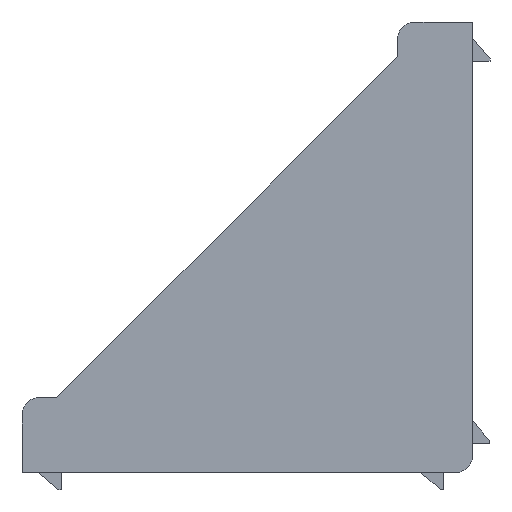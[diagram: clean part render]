
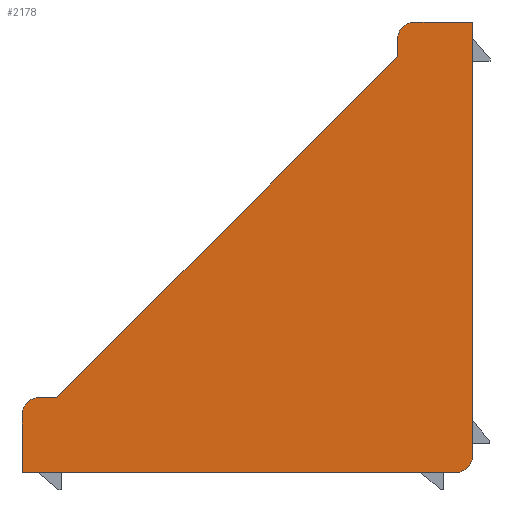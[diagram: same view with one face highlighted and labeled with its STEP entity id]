
A CAD part, left-side view. The second image highlights one B-rep face of the part: STEP entity #2178.
In plain terms, the highlighted planar face has unit normal (-1, 0, 0).
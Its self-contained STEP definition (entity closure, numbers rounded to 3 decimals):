
#35 = DIRECTION ( 'NONE',  ( -1., 0., 0. ) ) ;
#162 = DIRECTION ( 'NONE',  ( 0., 1., 0. ) ) ;
#188 = DIRECTION ( 'NONE',  ( 1., 0., 0. ) ) ;
#215 = CARTESIAN_POINT ( 'NONE',  ( -39., 13., 72. ) ) ;
#219 = VERTEX_POINT ( 'NONE', #4364 ) ;
#227 = VECTOR ( 'NONE', #1589, 1000. ) ;
#275 = DIRECTION ( 'NONE',  ( 0., 1., 0. ) ) ;
#376 = LINE ( 'NONE', #4398, #3003 ) ;
#383 = CARTESIAN_POINT ( 'NONE',  ( -39., 72., 13. ) ) ;
#387 = VERTEX_POINT ( 'NONE', #3217 ) ;
#415 = ORIENTED_EDGE ( 'NONE', *, *, #3533, .T. ) ;
#485 = CARTESIAN_POINT ( 'NONE',  ( -39., 7., 78. ) ) ;
#601 = LINE ( 'NONE', #3221, #2373 ) ;
#718 = CARTESIAN_POINT ( 'NONE',  ( -39., 3., 0. ) ) ;
#782 = CARTESIAN_POINT ( 'NONE',  ( -39., 13., 78. ) ) ;
#882 = CIRCLE ( 'NONE', #4147, 3. ) ;
#897 = DIRECTION ( 'NONE',  ( -1., 0., 0. ) ) ;
#978 = ORIENTED_EDGE ( 'NONE', *, *, #2535, .F. ) ;
#985 = CARTESIAN_POINT ( 'NONE',  ( -39., 78., 10. ) ) ;
#995 = EDGE_CURVE ( 'NONE', #2339, #1174, #4358, .T. ) ;
#1086 = ORIENTED_EDGE ( 'NONE', *, *, #1799, .T. ) ;
#1137 = EDGE_CURVE ( 'NONE', #387, #2651, #4539, .T. ) ;
#1174 = VERTEX_POINT ( 'NONE', #3415 ) ;
#1304 = VECTOR ( 'NONE', #162, 1000. ) ;
#1358 = CARTESIAN_POINT ( 'NONE',  ( -39., 75., 13. ) ) ;
#1380 = ORIENTED_EDGE ( 'NONE', *, *, #2467, .T. ) ;
#1471 = VERTEX_POINT ( 'NONE', #215 ) ;
#1495 = DIRECTION ( 'NONE',  ( 0., 0., -1. ) ) ;
#1566 = VERTEX_POINT ( 'NONE', #1358 ) ;
#1579 = VECTOR ( 'NONE', #275, 1000. ) ;
#1587 = ORIENTED_EDGE ( 'NONE', *, *, #1137, .T. ) ;
#1589 = DIRECTION ( 'NONE',  ( 0., 0.707, -0.707 ) ) ;
#1613 = CARTESIAN_POINT ( 'NONE',  ( -39., 10., 75. ) ) ;
#1635 = ORIENTED_EDGE ( 'NONE', *, *, #4428, .F. ) ;
#1738 = LINE ( 'NONE', #782, #2699 ) ;
#1799 = EDGE_CURVE ( 'NONE', #1471, #2395, #3155, .T. ) ;
#1803 = ORIENTED_EDGE ( 'NONE', *, *, #2678, .T. ) ;
#1898 = DIRECTION ( 'NONE',  ( 0., 0., -1. ) ) ;
#1908 = CARTESIAN_POINT ( 'NONE',  ( -39., 0., 0. ) ) ;
#1928 = AXIS2_PLACEMENT_3D ( 'NONE', #2297, #188, #2662 ) ;
#1940 = PLANE ( 'NONE',  #1928 ) ;
#1966 = DIRECTION ( 'NONE',  ( 0., 0., -1. ) ) ;
#2149 = CARTESIAN_POINT ( 'NONE',  ( -39., 3., 3. ) ) ;
#2178 = ADVANCED_FACE ( 'NONE', ( #3906 ), #1940, .F. ) ;
#2240 = LINE ( 'NONE', #1908, #1304 ) ;
#2287 = CARTESIAN_POINT ( 'NONE',  ( -39., 78., 0. ) ) ;
#2297 = CARTESIAN_POINT ( 'NONE',  ( -39., 0., 0. ) ) ;
#2339 = VERTEX_POINT ( 'NONE', #718 ) ;
#2373 = VECTOR ( 'NONE', #3578, 1000. ) ;
#2395 = VERTEX_POINT ( 'NONE', #383 ) ;
#2467 = EDGE_CURVE ( 'NONE', #2651, #1471, #1738, .T. ) ;
#2494 = DIRECTION ( 'NONE',  ( 0., 0., -1. ) ) ;
#2535 = EDGE_CURVE ( 'NONE', #387, #219, #3520, .T. ) ;
#2615 = DIRECTION ( 'NONE',  ( 0., -1., 0. ) ) ;
#2651 = VERTEX_POINT ( 'NONE', #4152 ) ;
#2662 = DIRECTION ( 'NONE',  ( 0., 0., -1. ) ) ;
#2678 = EDGE_CURVE ( 'NONE', #2395, #1566, #4415, .T. ) ;
#2699 = VECTOR ( 'NONE', #1495, 1000. ) ;
#2715 = VERTEX_POINT ( 'NONE', #985 ) ;
#2917 = EDGE_LOOP ( 'NONE', ( #1635, #3130, #4227, #978, #1587, #1380, #1086, #1803, #415, #3822 ) ) ;
#2960 = EDGE_CURVE ( 'NONE', #219, #1174, #376, .T. ) ;
#3002 = AXIS2_PLACEMENT_3D ( 'NONE', #1613, #4098, #1966 ) ;
#3003 = VECTOR ( 'NONE', #1898, 1000. ) ;
#3033 = CARTESIAN_POINT ( 'NONE',  ( -39., 75., 10. ) ) ;
#3130 = ORIENTED_EDGE ( 'NONE', *, *, #995, .T. ) ;
#3155 = LINE ( 'NONE', #3352, #227 ) ;
#3176 = VECTOR ( 'NONE', #2615, 1000. ) ;
#3217 = CARTESIAN_POINT ( 'NONE',  ( -39., 10., 78. ) ) ;
#3221 = CARTESIAN_POINT ( 'NONE',  ( -39., 78., 0. ) ) ;
#3324 = AXIS2_PLACEMENT_3D ( 'NONE', #2149, #35, #2494 ) ;
#3352 = CARTESIAN_POINT ( 'NONE',  ( -39., 13., 72. ) ) ;
#3388 = DIRECTION ( 'NONE',  ( 0., 0., -1. ) ) ;
#3415 = CARTESIAN_POINT ( 'NONE',  ( -39., 0., 3. ) ) ;
#3520 = LINE ( 'NONE', #485, #3176 ) ;
#3533 = EDGE_CURVE ( 'NONE', #1566, #2715, #882, .T. ) ;
#3578 = DIRECTION ( 'NONE',  ( 0., 0., 1. ) ) ;
#3822 = ORIENTED_EDGE ( 'NONE', *, *, #4107, .F. ) ;
#3906 = FACE_OUTER_BOUND ( 'NONE', #2917, .T. ) ;
#4098 = DIRECTION ( 'NONE',  ( -1., 0., 0. ) ) ;
#4107 = EDGE_CURVE ( 'NONE', #4341, #2715, #601, .T. ) ;
#4147 = AXIS2_PLACEMENT_3D ( 'NONE', #3033, #897, #3388 ) ;
#4152 = CARTESIAN_POINT ( 'NONE',  ( -39., 13., 75. ) ) ;
#4227 = ORIENTED_EDGE ( 'NONE', *, *, #2960, .F. ) ;
#4341 = VERTEX_POINT ( 'NONE', #2287 ) ;
#4358 = CIRCLE ( 'NONE', #3324, 3. ) ;
#4364 = CARTESIAN_POINT ( 'NONE',  ( -39., 0., 78. ) ) ;
#4398 = CARTESIAN_POINT ( 'NONE',  ( -39., 0., 0. ) ) ;
#4415 = LINE ( 'NONE', #4536, #1579 ) ;
#4428 = EDGE_CURVE ( 'NONE', #2339, #4341, #2240, .T. ) ;
#4536 = CARTESIAN_POINT ( 'NONE',  ( -39., 72., 13. ) ) ;
#4539 = CIRCLE ( 'NONE', #3002, 3. ) ;
